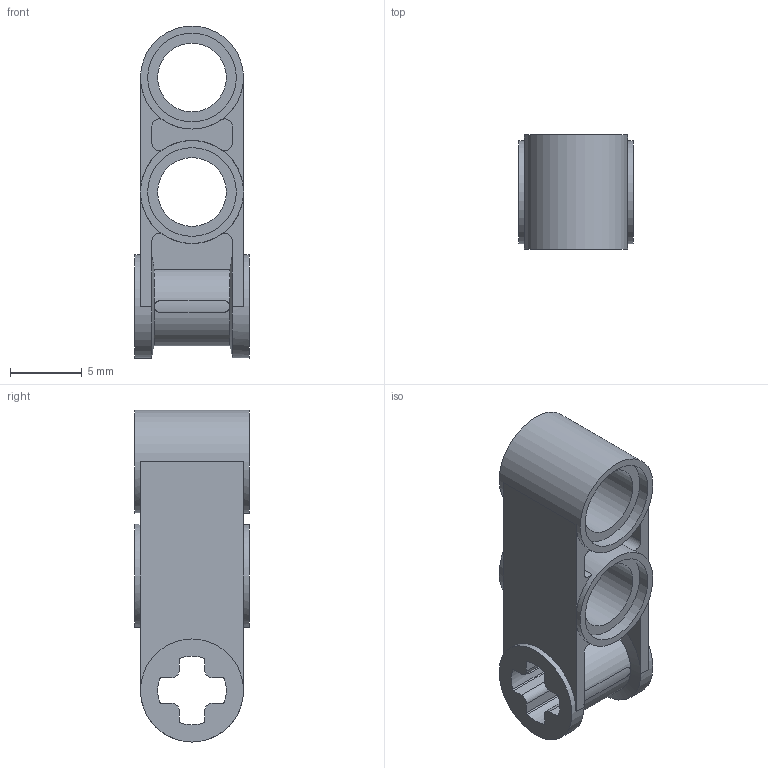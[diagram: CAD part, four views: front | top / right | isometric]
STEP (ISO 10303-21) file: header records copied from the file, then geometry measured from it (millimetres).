
FILE_DESCRIPTION(/* description */ ('Unknown'),/* implementation_level */ '2;1');
FILE_NAME(/* name */ 'Ye_4175441_MCM',/* time_stamp */ '2025-07-22T00:08:31+02:00',/* author */ ('Unknown'),/* organization */ ('Unknown'),/* preprocessor_version */ 'ST-DEVELOPER v19.4',/* originating_system */ 'Solid Edge',/* authorisation */ 'Unknown');
FILE_SCHEMA (('AUTOMOTIVE_DESIGN {1 0 10303 214 3 1 1}'));
Length unit declared in the file: millimetre
Products named in the file (1): Ye_4175441_MCM
Bounding box: 8 x 8 x 23.2 mm (x, y, z)
Volume: 586.3 mm3; surface area: 1210.5 mm2
Topology: 1 solids, 1 shells, 92 faces, 243 edges, 158 vertices
Faces by surface type: cylinder 45, plane 45, cone 2
Full cylindrical faces by diameter (mm): 4.8 x2, 6.2 x4, 7.2 x5
Entity records: 2860 total; most frequent: CARTESIAN_POINT 537, DIRECTION 496, ORIENTED_EDGE 458, EDGE_CURVE 229, AXIS2_PLACEMENT_3D 191, VERTEX_POINT 156, EDGE_LOOP 117, FACE_BOUND 117
